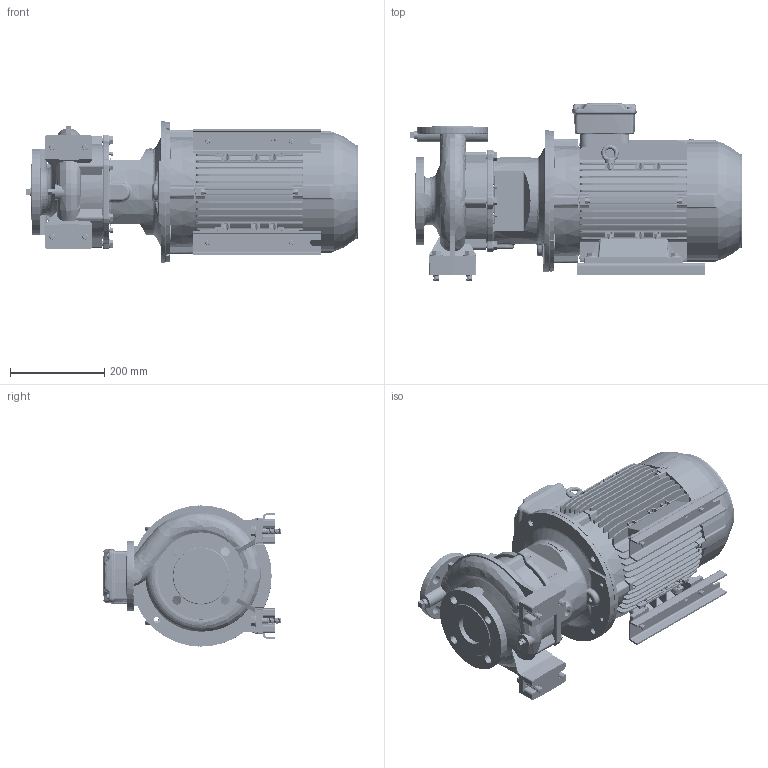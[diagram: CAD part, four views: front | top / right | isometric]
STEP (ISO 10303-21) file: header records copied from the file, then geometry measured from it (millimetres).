
FILE_DESCRIPTION (( 'STEP AP214' ), '1' );
FILE_NAME ('GSD2 40-160_9.2_(132M)_W21.STEP', '2026-07-02T05:25:52', ( '' ), ( '' ), 'SwSTEP 2.0', 'SolidWorks 2024', '' );
FILE_SCHEMA (( 'AUTOMOTIVE_DESIGN' ));
Length unit declared in the file: millimetre
Products named in the file (11): Parametric bolt_SFT-A309B; Parametric bolt and washer_SFT-A253B; 40-160-132M; GSD2  40-160_9.2_(132M)_W21; Parametric Flat Washer_M10; 140_178 x 25 - CGSDA-5240; Parametric bolt_SFT-A253B; CGS11-5301_2_3_4_5_CGS11-5302; Parametric Flat Washer_M12; Parametric bolt and washer_SFT-A309B; 132M ALIE3_W21T_B35
Assembly tree (18 placements, depth 3):
  GSD2  40-160_9.2_(132M)_W21
    40-160-132M
    CGS11-5301_2_3_4_5_CGS11-5302  x2
    Parametric bolt and washer_SFT-A309B  x4
      Parametric bolt_SFT-A309B
      Parametric Flat Washer_M12
    Parametric bolt and washer_SFT-A253B  x4
      Parametric bolt_SFT-A253B
      Parametric Flat Washer_M10
    132M ALIE3_W21T_B35
    140_178 x 25 - CGSDA-5240  x2
Bounding box: 705.45 x 377.5 x 300 mm (x, y, z)
Volume: 26954152.5 mm3; surface area: 1895964.4 mm2
Topology: 34 solids, 34 shells, 4982 faces, 13112 edges, 8528 vertices
Faces by surface type: plane 2906, cylinder 1243, torus 335, bspline 256, cone 210, sphere 32
Entity records: 170132 total; most frequent: CARTESIAN_POINT 58901, ORIENTED_EDGE 24080, DIRECTION 21551, EDGE_CURVE 12040, LINE 7891, VECTOR 7891, VERTEX_POINT 7842, AXIS2_PLACEMENT_3D 6830
